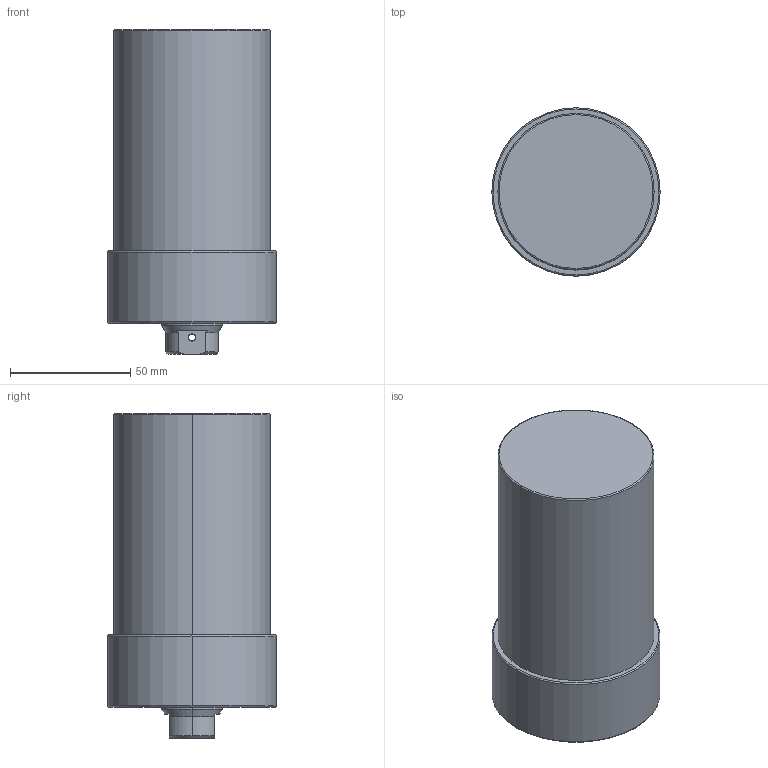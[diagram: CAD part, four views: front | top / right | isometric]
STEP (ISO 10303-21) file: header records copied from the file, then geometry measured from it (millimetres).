
FILE_DESCRIPTION (( 'STEP AP203' ), '1' );
FILE_NAME ('CLLU-065GB-075.STEP', '2020-01-06T08:50:33', ( '' ), ( '' ), 'SwSTEP 2.0', 'SolidWorks 2015', '' );
FILE_SCHEMA (( 'CONFIG_CONTROL_DESIGN' ));
Length unit declared in the file: millimetre
Products named in the file (1): CLLU-065GB-075
Bounding box: 70 x 70 x 135 mm (x, y, z)
Volume: 421212 mm3; surface area: 36007.2 mm2
Topology: 1 solids, 1 shells, 68 faces, 157 edges, 90 vertices
Faces by surface type: cylinder 27, cone 25, plane 10, torus 6
Entity records: 2051 total; most frequent: CARTESIAN_POINT 438, DIRECTION 352, ORIENTED_EDGE 294, AXIS2_PLACEMENT_3D 148, EDGE_CURVE 147, VERTEX_POINT 90, EDGE_LOOP 81, CIRCLE 79
